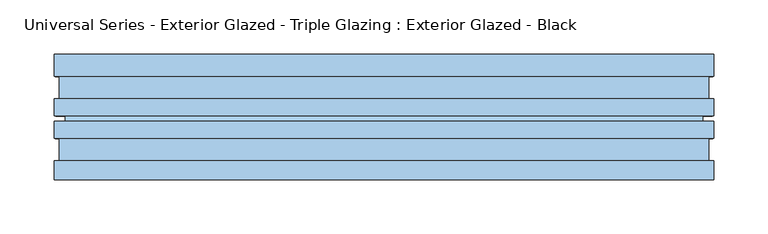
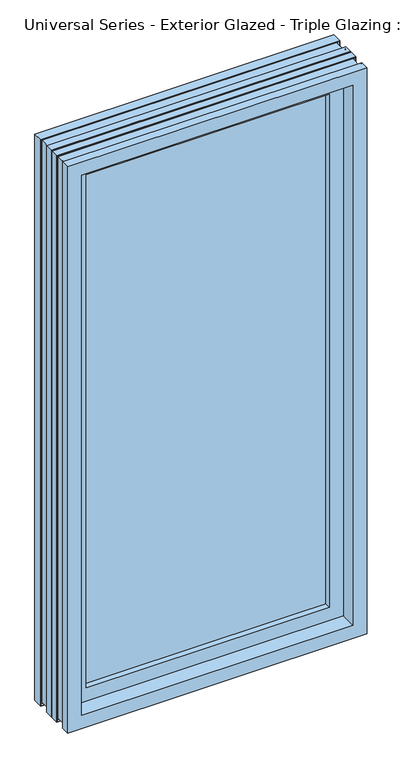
"""IFC4 building model written with IfcOpenShell, lengths in millimetres: window geometry, Universal Series - Exterior Glazed - Triple Glazing : Exterior Glazed - Black."""

from ifc_helpers import new_model, si_unit, frame, origin, place, context, project, spatial, polyline, ellipse_curve, outline, extrude, faceted_brep, source, transform, mapped, element, save
from ifc_brep_helpers import plane_surface, revolved_surface, advanced_brep


def universal_series_exterior_glazed_triple_glazing_exterior_8804a1f0(model_context):
    return source(origin(), model_context, "Body", "SolidModel", [
        extrude(outline(polyline([(276.225, 122.225), (276.225, 117.065625), (-276.225, 117.065625), (-276.225, 122.225), (276.225, 122.225)])), frame((0.0, 0.0, 790.575), z_axis=(0.0, 0.0, 1.0), x_axis=(1.0, 0.0, 0.0)), (0.0, 0.0, 1.0), 1162.05),
        extrude(outline(polyline([(276.225, 100.9921875), (276.225, 95.8328125), (-276.225, 95.8328125), (-276.225, 100.9921875), (276.225, 100.9921875)])), frame((0.0, 0.0, 790.575), z_axis=(0.0, 0.0, 1.0), x_axis=(1.0, 0.0, 0.0)), (0.0, 0.0, 1.0), 1162.05),
        extrude(outline(polyline([(276.225, 79.759375), (276.225, 74.6), (-276.225, 74.6), (-276.225, 79.759375), (276.225, 79.759375)])), frame((0.0, 0.0, 790.575), z_axis=(0.0, 0.0, 1.0), x_axis=(1.0, 0.0, 0.0)), (0.0, 0.0, 1.0), 1162.05),
        faceted_brep([(247.65, 122.225, 1924.05), (249.2375, 144.45, 1925.6375), (249.2375, 144.45, 817.5625), (247.65, 122.225, 819.15), (-249.2375, 144.45, 817.5625), (-247.65, 122.225, 819.15), (-285.75, 144.45, 781.05), (-285.75, 144.45, 1962.15), (285.75, 144.45, 1962.15), (285.75, 144.45, 781.05), (-249.2375, 144.45, 1925.6375), (-247.65, 122.225, 1924.05), (276.225, 123.8125, 790.575), (-276.225, 123.8125, 790.575), (276.225, 123.8125, 1952.625), (-276.225, 123.8125, 1952.625), (276.225, 142.8625, 790.575), (-276.225, 142.8625, 790.575), (276.225, 142.8625, 1952.625), (-276.225, 142.8625, 1952.625), (285.75, 142.8625, 781.05), (285.75, 142.8625, 1962.15), (-285.75, 142.8625, 1962.15), (-285.75, 142.8625, 781.05)], [[[0, 1, 2, 3]], [[3, 2, 4, 5]], [[6, 7, 8, 9], [2, 1, 10, 4]], [[5, 4, 10, 11]], [[12, 3, 5, 13]], [[14, 0, 3, 12]], [[13, 5, 11, 15]], [[16, 12, 13, 17]], [[18, 14, 12, 16]], [[17, 13, 15, 19]], [[20, 21, 22, 23], [17, 19, 18, 16]], [[8, 21, 20, 9]], [[9, 20, 23, 6]], [[6, 23, 22, 7]], [[11, 10, 1, 0]], [[15, 11, 0, 14]], [[19, 15, 14, 18]], [[7, 22, 21, 8]]]),
        advanced_brep(
        [(304.8, 46.025, 1981.2), (304.8, 28.5625, 1981.2), (304.8, 28.5625, 762.0), (304.8, 46.025, 762.0), (-304.8, 28.5625, 762.0), (-304.8, 46.025, 762.0), (-304.8, 28.5625, 1981.2), (-276.225, 28.5625, 790.575), (-276.225, 28.5625, 1952.625), (276.225, 28.5625, 1952.625), (276.225, 28.5625, 790.575), (-304.8, 46.025, 1981.2), (303.609375, 46.025, 763.190625), (303.609375, 46.025, 1980.009375), (-303.609375, 46.025, 1980.009375), (-303.609375, 46.025, 763.190625), (302.021875, 42.85, 1978.421875), (302.021875, 42.85, 764.778125), (-302.021875, 42.85, 764.778125), (-302.021875, 42.85, 1978.421875), (300.0375, 42.85, 766.7625), (300.0375, 42.85, 1976.4375), (-300.0375, 42.85, 1976.4375), (-300.0375, 42.85, 766.7625), (300.0375, 69.8375, 1976.4375), (300.0375, 69.8375, 766.7625), (-300.0375, 69.8375, 766.7625), (-300.0375, 69.8375, 1976.4375), (302.021875, 69.8375, 764.778125), (302.021875, 69.8375, 1978.421875), (-302.021875, 69.8375, 1978.421875), (-302.021875, 69.8375, 764.778125), (303.609375, 66.6625, 1980.009375), (303.609375, 66.6625, 763.190625), (-303.609375, 66.6625, 763.190625), (-303.609375, 66.6625, 1980.009375), (304.8, 66.6625, 762.0), (304.8, 66.6625, 1981.2), (-304.8, 66.6625, 1981.2), (-304.8, 66.6625, 762.0), (304.8, 82.5375, 1981.2), (304.8, 82.5375, 762.0), (-304.8, 82.5375, 762.0), (-304.8, 82.5375, 1981.2), (303.2125, 82.5375, 763.5875), (303.2125, 82.5375, 1979.6125), (-303.2125, 82.5375, 1979.6125), (-303.2125, 82.5375, 763.5875), (303.2125, 87.3, 1979.6125), (303.2125, 87.3, 763.5875), (-303.2125, 87.3, 763.5875), (-303.2125, 87.3, 1979.6125), (304.8, 87.3, 762.0), (304.8, 87.3, 1981.2), (-304.8, 87.3, 1981.2), (-304.8, 87.3, 762.0), (304.8, 103.175, 1981.2), (304.8, 103.175, 762.0), (-304.8, 103.175, 762.0), (-304.8, 103.175, 1981.2), (303.609375, 103.175, 763.190625), (303.609375, 103.175, 1980.009375), (-303.609375, 103.175, 1980.009375), (-303.609375, 103.175, 763.190625), (302.021875, 100.0, 1978.421875), (302.021875, 100.0, 764.778125), (-302.021875, 100.0, 764.778125), (-302.021875, 100.0, 1978.421875), (300.0375, 100.0, 766.7625), (300.0375, 100.0, 1976.4375), (-300.0375, 100.0, 1976.4375), (-300.0375, 100.0, 766.7625), (300.0375, 126.9875, 1976.4375), (300.0375, 126.9875, 766.7625), (-300.0375, 126.9875, 766.7625), (-300.0375, 126.9875, 1976.4375), (302.021875, 126.9875, 764.778125), (302.021875, 126.9875, 1978.421875), (-302.021875, 126.9875, 1978.421875), (-302.021875, 126.9875, 764.778125), (303.609375, 123.8125, 1980.009375), (303.609375, 123.8125, 763.190625), (-303.609375, 123.8125, 763.190625), (-303.609375, 123.8125, 1980.009375), (304.8, 123.8125, 762.0), (304.8, 123.8125, 1981.2), (-304.8, 123.8125, 1981.2), (-304.8, 123.8125, 762.0), (304.8, 144.45, 1981.2), (304.8, 144.45, 762.0), (-304.8, 144.45, 762.0), (-304.8, 144.45, 1981.2), (285.75, 144.45, 781.05), (285.75, 144.45, 1962.15), (-285.75, 144.45, 1962.15), (-285.75, 144.45, 781.05), (285.75, 130.1625, 1962.15), (285.75, 130.1625, 781.05), (-285.75, 130.1625, 781.05), (-285.75, 130.1625, 1962.15), (276.225, 130.1625, 790.575), (276.225, 130.1625, 1952.625), (-276.225, 130.1625, 1952.625), (-276.225, 130.1625, 790.575), (276.225, 74.6, 1952.625), (276.225, 74.6, 790.575), (-276.225, 74.6, 790.575), (-276.225, 74.6, 1952.625), (247.65, 74.6, 819.15), (247.65, 74.6, 1924.05), (-247.65, 74.6, 1924.05), (-247.65, 74.6, 819.15), (247.65, 61.9, 1924.05), (247.65, 61.9, 819.15), (-247.65, 61.9, 819.15), (-247.65, 61.9, 1924.05), (276.225, 61.9, 790.575), (276.225, 61.9, 1952.625), (-276.225, 61.9, 1952.625), (-276.225, 61.9, 790.575)],
        [
            (0, 1),
            (1, 2),
            (2, 3),
            (3, 0),
            (2, 4),
            (4, 5),
            (5, 3),
            (1, 6),
            (6, 4),
            (7, 8),
            (8, 9),
            (9, 10),
            (10, 7),
            (6, 11),
            (11, 5),
            (11, 0),
            (12, 13),
            (13, 14),
            (14, 15),
            (15, 12),
            (16, 13),
            (12, 17),
            (17, 16),
            (15, 18),
            (18, 17),
            (14, 19),
            (19, 18),
            (19, 16),
            (20, 21),
            (21, 22),
            (22, 23),
            (23, 20),
            (24, 21),
            (20, 25),
            (25, 24),
            (23, 26),
            (26, 25),
            (22, 27),
            (27, 26),
            (28, 29),
            (29, 30),
            (30, 31),
            (31, 28),
            (27, 24),
            (32, 29),
            (28, 33),
            (33, 32),
            (31, 34),
            (34, 33),
            (30, 35),
            (35, 34),
            (36, 37),
            (37, 38),
            (38, 39),
            (39, 36),
            (35, 32),
            (40, 37),
            (36, 41),
            (41, 40),
            (39, 42),
            (42, 41),
            (38, 43),
            (43, 42),
            (43, 40),
            (44, 45),
            (45, 46),
            (46, 47),
            (47, 44),
            (48, 45, ellipse_curve(frame((299.088054, 84.91875, 1975.488054), z_axis=(-0.7071067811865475, 0.0, 0.7071067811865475), x_axis=(-0.7071067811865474, 0.0, -0.7071067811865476)), 6.7351921, 4.7625)),
            (44, 49, ellipse_curve(frame((299.088054, 84.91875, 767.711946), z_axis=(-0.7071067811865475, 0.0, -0.7071067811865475), x_axis=(0.7071067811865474, 0.0, -0.7071067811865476)), 6.7351921, 4.7625)),
            (49, 48),
            (47, 50, ellipse_curve(frame((-299.088054, 84.91875, 767.711946), z_axis=(-0.7071067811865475, 0.0, 0.7071067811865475), x_axis=(-0.7071067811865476, 0.0, -0.7071067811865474)), 6.7351921, 4.7625)),
            (50, 49),
            (46, 51, ellipse_curve(frame((-299.088054, 84.91875, 1975.488054), z_axis=(0.7071067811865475, 0.0, 0.7071067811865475), x_axis=(-0.7071067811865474, 0.0, 0.7071067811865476)), 6.7351921, 4.7625)),
            (51, 50),
            (52, 53),
            (53, 54),
            (54, 55),
            (55, 52),
            (51, 48),
            (56, 53),
            (52, 57),
            (57, 56),
            (55, 58),
            (58, 57),
            (54, 59),
            (59, 58),
            (59, 56),
            (60, 61),
            (61, 62),
            (62, 63),
            (63, 60),
            (64, 61),
            (60, 65),
            (65, 64),
            (63, 66),
            (66, 65),
            (62, 67),
            (67, 66),
            (67, 64),
            (68, 69),
            (69, 70),
            (70, 71),
            (71, 68),
            (72, 69),
            (68, 73),
            (73, 72),
            (71, 74),
            (74, 73),
            (70, 75),
            (75, 74),
            (76, 77),
            (77, 78),
            (78, 79),
            (79, 76),
            (75, 72),
            (80, 77),
            (76, 81),
            (81, 80),
            (79, 82),
            (82, 81),
            (78, 83),
            (83, 82),
            (84, 85),
            (85, 86),
            (86, 87),
            (87, 84),
            (83, 80),
            (88, 85),
            (84, 89),
            (89, 88),
            (87, 90),
            (90, 89),
            (86, 91),
            (91, 90),
            (91, 88),
            (92, 93),
            (93, 94),
            (94, 95),
            (95, 92),
            (96, 93),
            (92, 97),
            (97, 96),
            (95, 98),
            (98, 97),
            (94, 99),
            (99, 98),
            (99, 96),
            (100, 101),
            (101, 102),
            (102, 103),
            (103, 100),
            (104, 101),
            (100, 105),
            (105, 104),
            (103, 106),
            (106, 105),
            (102, 107),
            (107, 106),
            (107, 104),
            (108, 109),
            (109, 110),
            (110, 111),
            (111, 108),
            (112, 109),
            (108, 113),
            (113, 112),
            (111, 114),
            (114, 113),
            (110, 115),
            (115, 114),
            (116, 117),
            (117, 118),
            (118, 119),
            (119, 116),
            (115, 112),
            (9, 117),
            (116, 10),
            (119, 7),
            (118, 8),
        ],
        [
            plane_surface(frame((304.8, 28.5625, 1981.2), z_axis=(1.0, 0.0, 0.0), x_axis=(0.0, 0.0, -1.0))),
            plane_surface(frame((304.8, 28.5625, 762.0), z_axis=(0.0, 0.0, -1.0), x_axis=(-1.0, 0.0, 0.0))),
            plane_surface(frame((276.225, 28.5625, 1952.625), z_axis=(0.0, -1.0, 0.0), x_axis=(0.0, 0.0, -1.0))),
            plane_surface(frame((-304.8, 28.5625, 762.0), z_axis=(-1.0, 0.0, 0.0), x_axis=(0.0, 0.0, 1.0))),
            plane_surface(frame((304.8, 46.025, 1981.2), z_axis=(0.0, 1.0, 0.0), x_axis=(0.0, 0.0, -1.0))),
            plane_surface(frame((303.609375, 46.025, 1980.009375), z_axis=(-0.8944271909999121, 0.4472135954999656, 0.0), x_axis=(0.0, 0.0, -1.0))),
            plane_surface(frame((303.609375, 46.025, 763.190625), z_axis=(0.0, 0.4472135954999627, 0.8944271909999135), x_axis=(-1.0, 0.0, 0.0))),
            plane_surface(frame((-303.609375, 46.025, 763.190625), z_axis=(0.894427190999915, 0.4472135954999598, 0.0), x_axis=(0.0, 0.0, 1.0))),
            plane_surface(frame((302.021875, 42.85, 1978.421875), z_axis=(0.0, 1.0, 0.0), x_axis=(0.0, 0.0, -1.0))),
            plane_surface(frame((300.0375, 42.85, 1976.4375), z_axis=(1.0, 0.0, 0.0), x_axis=(0.0, 0.0, -1.0))),
            plane_surface(frame((300.0375, 42.85, 766.7625), z_axis=(0.0, 0.0, -1.0), x_axis=(-1.0, 0.0, 0.0))),
            plane_surface(frame((-300.0375, 42.85, 766.7625), z_axis=(-1.0, 0.0, 0.0), x_axis=(0.0, 0.0, 1.0))),
            plane_surface(frame((300.0375, 69.8375, 1976.4375), z_axis=(0.0, -1.0, 0.0), x_axis=(0.0, 0.0, -1.0))),
            plane_surface(frame((302.021875, 69.8375, 1978.421875), z_axis=(-0.8944271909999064, -0.447213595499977, 0.0), x_axis=(0.0, 0.0, -1.0))),
            plane_surface(frame((302.021875, 69.8375, 764.778125), z_axis=(0.0, -0.4472135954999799, 0.894427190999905), x_axis=(-1.0, 0.0, 0.0))),
            plane_surface(frame((-302.021875, 69.8375, 764.778125), z_axis=(0.8944271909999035, -0.4472135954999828, 0.0), x_axis=(0.0, 0.0, 1.0))),
            plane_surface(frame((303.609375, 66.6625, 1980.009375), z_axis=(0.0, -1.0, 0.0), x_axis=(0.0, 0.0, -1.0))),
            plane_surface(frame((304.8, 66.6625, 1981.2), z_axis=(1.0, 0.0, 0.0), x_axis=(0.0, 0.0, -1.0))),
            plane_surface(frame((304.8, 66.6625, 762.0), z_axis=(0.0, 0.0, -1.0), x_axis=(-1.0, 0.0, 0.0))),
            plane_surface(frame((-304.8, 66.6625, 762.0), z_axis=(-1.0, 0.0, 0.0), x_axis=(0.0, 0.0, 1.0))),
            plane_surface(frame((304.8, 82.5375, 1981.2), z_axis=(0.0, 1.0, 0.0), x_axis=(0.0, 0.0, -1.0))),
            revolved_surface(polyline([(299.088054, 80.15625, 762.949445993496), (299.088054, 80.15625, 1980.250554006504)]), (299.088054, 84.91875, 1981.2), (0.0, 0.0, -1.0)),
            revolved_surface(polyline([(-303.85055400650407, 80.15625, 767.711946), (303.85055400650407, 80.15625, 767.711946)]), (304.8, 84.91875, 767.711946), (-1.0, 0.0, 0.0)),
            revolved_surface(polyline([(-299.088054, 80.15625, 1980.250554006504), (-299.088054, 80.15625, 762.9494459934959)]), (-299.088054, 84.91875, 762.0), (0.0, 0.0, 1.0)),
            plane_surface(frame((303.2125, 87.3, 1979.6125), z_axis=(0.0, -1.0, 0.0), x_axis=(0.0, 0.0, -1.0))),
            plane_surface(frame((304.8, 87.3, 1981.2), z_axis=(1.0, 0.0, 0.0), x_axis=(0.0, 0.0, -1.0))),
            plane_surface(frame((304.8, 87.3, 762.0), z_axis=(0.0, 0.0, -1.0), x_axis=(-1.0, 0.0, 0.0))),
            plane_surface(frame((-304.8, 87.3, 762.0), z_axis=(-1.0, 0.0, 0.0), x_axis=(0.0, 0.0, 1.0))),
            plane_surface(frame((304.8, 103.175, 1981.2), z_axis=(0.0, 1.0, 0.0), x_axis=(0.0, 0.0, -1.0))),
            plane_surface(frame((303.609375, 103.175, 1980.009375), z_axis=(-0.8944271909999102, 0.44721359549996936, 0.0), x_axis=(0.0, 0.0, -1.0))),
            plane_surface(frame((303.609375, 103.175, 763.190625), z_axis=(0.0, 0.4472135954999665, 0.8944271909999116), x_axis=(-1.0, 0.0, 0.0))),
            plane_surface(frame((-303.609375, 103.175, 763.190625), z_axis=(0.8944271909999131, 0.4472135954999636, 0.0), x_axis=(0.0, 0.0, 1.0))),
            plane_surface(frame((302.021875, 100.0, 1978.421875), z_axis=(0.0, 1.0, 0.0), x_axis=(0.0, 0.0, -1.0))),
            plane_surface(frame((300.0375, 100.0, 1976.4375), z_axis=(1.0, 0.0, 0.0), x_axis=(0.0, 0.0, -1.0))),
            plane_surface(frame((300.0375, 100.0, 766.7625), z_axis=(0.0, 0.0, -1.0), x_axis=(-1.0, 0.0, 0.0))),
            plane_surface(frame((-300.0375, 100.0, 766.7625), z_axis=(-1.0, 0.0, 0.0), x_axis=(0.0, 0.0, 1.0))),
            plane_surface(frame((300.0375, 126.9875, 1976.4375), z_axis=(0.0, -1.0, 0.0), x_axis=(0.0, 0.0, -1.0))),
            plane_surface(frame((302.021875, 126.9875, 1978.421875), z_axis=(-0.8944271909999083, -0.44721359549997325, 0.0), x_axis=(0.0, 0.0, -1.0))),
            plane_surface(frame((302.021875, 126.9875, 764.778125), z_axis=(0.0, -0.4472135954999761, 0.8944271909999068), x_axis=(-1.0, 0.0, 0.0))),
            plane_surface(frame((-302.021875, 126.9875, 764.778125), z_axis=(0.8944271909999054, -0.447213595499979, 0.0), x_axis=(0.0, 0.0, 1.0))),
            plane_surface(frame((303.609375, 123.8125, 1980.009375), z_axis=(0.0, -1.0, 0.0), x_axis=(0.0, 0.0, -1.0))),
            plane_surface(frame((304.8, 123.8125, 1981.2), z_axis=(1.0, 0.0, 0.0), x_axis=(0.0, 0.0, -1.0))),
            plane_surface(frame((304.8, 123.8125, 762.0), z_axis=(0.0, 0.0, -1.0), x_axis=(-1.0, 0.0, 0.0))),
            plane_surface(frame((-304.8, 123.8125, 762.0), z_axis=(-1.0, 0.0, 0.0), x_axis=(0.0, 0.0, 1.0))),
            plane_surface(frame((304.8, 144.45, 1981.2), z_axis=(0.0, 1.0, 0.0), x_axis=(0.0, 0.0, -1.0))),
            plane_surface(frame((285.75, 144.45, 1962.15), z_axis=(-1.0, 0.0, 0.0), x_axis=(0.0, 0.0, -1.0))),
            plane_surface(frame((285.75, 144.45, 781.05), z_axis=(0.0, 0.0, 1.0), x_axis=(-1.0, 0.0, 0.0))),
            plane_surface(frame((-285.75, 144.45, 781.05), z_axis=(1.0, 0.0, 0.0), x_axis=(0.0, 0.0, 1.0))),
            plane_surface(frame((285.75, 130.1625, 1962.15), z_axis=(0.0, 1.0, 0.0), x_axis=(0.0, 0.0, -1.0))),
            plane_surface(frame((276.225, 130.1625, 1952.625), z_axis=(-1.0, 0.0, 0.0), x_axis=(0.0, 0.0, -1.0))),
            plane_surface(frame((276.225, 130.1625, 790.575), z_axis=(0.0, 0.0, 1.0), x_axis=(-1.0, 0.0, 0.0))),
            plane_surface(frame((-276.225, 130.1625, 790.575), z_axis=(1.0, 0.0, 0.0), x_axis=(0.0, 0.0, 1.0))),
            plane_surface(frame((276.225, 74.6, 1952.625), z_axis=(0.0, 1.0, 0.0), x_axis=(0.0, 0.0, -1.0))),
            plane_surface(frame((247.65, 74.6, 1924.05), z_axis=(-1.0, 0.0, 0.0), x_axis=(0.0, 0.0, -1.0))),
            plane_surface(frame((247.65, 74.6, 819.15), z_axis=(0.0, 0.0, 1.0), x_axis=(-1.0, 0.0, 0.0))),
            plane_surface(frame((-247.65, 74.6, 819.15), z_axis=(1.0, 0.0, 0.0), x_axis=(0.0, 0.0, 1.0))),
            plane_surface(frame((247.65, 61.9, 1924.05), z_axis=(0.0, -1.0, 0.0), x_axis=(0.0, 0.0, -1.0))),
            plane_surface(frame((276.225, 61.9, 1952.625), z_axis=(-1.0, 0.0, 0.0), x_axis=(0.0, 0.0, -1.0))),
            plane_surface(frame((276.225, 61.9, 790.575), z_axis=(0.0, 0.0, 1.0), x_axis=(-1.0, 0.0, 0.0))),
            plane_surface(frame((-276.225, 61.9, 790.575), z_axis=(1.0, 0.0, 0.0), x_axis=(0.0, 0.0, 1.0))),
            plane_surface(frame((-304.8, 28.5625, 1981.2), z_axis=(0.0, 0.0, 1.0), x_axis=(1.0, 0.0, 0.0))),
            plane_surface(frame((-303.609375, 46.025, 1980.009375), z_axis=(0.0, 0.4472135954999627, -0.8944271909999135), x_axis=(1.0, 0.0, 0.0))),
            plane_surface(frame((-300.0375, 42.85, 1976.4375), z_axis=(0.0, 0.0, 1.0), x_axis=(1.0, 0.0, 0.0))),
            plane_surface(frame((-302.021875, 69.8375, 1978.421875), z_axis=(0.0, -0.4472135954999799, -0.894427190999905), x_axis=(1.0, 0.0, 0.0))),
            plane_surface(frame((-304.8, 66.6625, 1981.2), z_axis=(0.0, 0.0, 1.0), x_axis=(1.0, 0.0, 0.0))),
            revolved_surface(polyline([(303.85055400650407, 80.15625, 1975.488054), (-303.85055400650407, 80.15625, 1975.488054)]), (-304.8, 84.91875, 1975.488054), (1.0, 0.0, 0.0)),
            plane_surface(frame((-304.8, 87.3, 1981.2), z_axis=(0.0, 0.0, 1.0), x_axis=(1.0, 0.0, 0.0))),
            plane_surface(frame((-303.609375, 103.175, 1980.009375), z_axis=(0.0, 0.4472135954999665, -0.8944271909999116), x_axis=(1.0, 0.0, 0.0))),
            plane_surface(frame((-300.0375, 100.0, 1976.4375), z_axis=(0.0, 0.0, 1.0), x_axis=(1.0, 0.0, 0.0))),
            plane_surface(frame((-302.021875, 126.9875, 1978.421875), z_axis=(0.0, -0.44721359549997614, -0.8944271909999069), x_axis=(1.0, 0.0, 0.0))),
            plane_surface(frame((-304.8, 123.8125, 1981.2), z_axis=(0.0, 0.0, 1.0), x_axis=(1.0, 0.0, 0.0))),
            plane_surface(frame((-285.75, 144.45, 1962.15), z_axis=(0.0, 0.0, -1.0), x_axis=(1.0, 0.0, 0.0))),
            plane_surface(frame((-276.225, 130.1625, 1952.625), z_axis=(0.0, 0.0, -1.0), x_axis=(1.0, 0.0, 0.0))),
            plane_surface(frame((-247.65, 74.6, 1924.05), z_axis=(0.0, 0.0, -1.0), x_axis=(1.0, 0.0, 0.0))),
            plane_surface(frame((-276.225, 61.9, 1952.625), z_axis=(0.0, 0.0, -1.0), x_axis=(1.0, 0.0, 0.0))),
        ],
        [
            (0, [[1, 2, 3, 4]]),
            (1, [[-3, 5, 6, 7]]),
            (2, [[-2, 8, 9, -5], [10, 11, 12, 13]]),
            (3, [[-6, -9, 14, 15]]),
            (4, [[-15, 16, -4, -7], [17, 18, 19, 20]]),
            (5, [[21, -17, 22, 23]]),
            (6, [[-22, -20, 24, 25]]),
            (7, [[-24, -19, 26, 27]]),
            (8, [[-27, 28, -23, -25], [29, 30, 31, 32]]),
            (9, [[33, -29, 34, 35]]),
            (10, [[-34, -32, 36, 37]]),
            (11, [[-36, -31, 38, 39]]),
            (12, [[40, 41, 42, 43], [-39, 44, -35, -37]]),
            (13, [[45, -40, 46, 47]]),
            (14, [[-46, -43, 48, 49]]),
            (15, [[-48, -42, 50, 51]]),
            (16, [[52, 53, 54, 55], [-51, 56, -47, -49]]),
            (17, [[57, -52, 58, 59]]),
            (18, [[-58, -55, 60, 61]]),
            (19, [[-60, -54, 62, 63]]),
            (20, [[-63, 64, -59, -61], [65, 66, 67, 68]]),
            (21, [[69, -65, 70, 71]]),
            (22, [[-70, -68, 72, 73]]),
            (23, [[-72, -67, 74, 75]]),
            (24, [[76, 77, 78, 79], [-75, 80, -71, -73]]),
            (25, [[81, -76, 82, 83]]),
            (26, [[-82, -79, 84, 85]]),
            (27, [[-84, -78, 86, 87]]),
            (28, [[-87, 88, -83, -85], [89, 90, 91, 92]]),
            (29, [[93, -89, 94, 95]]),
            (30, [[-94, -92, 96, 97]]),
            (31, [[-96, -91, 98, 99]]),
            (32, [[-99, 100, -95, -97], [101, 102, 103, 104]]),
            (33, [[105, -101, 106, 107]]),
            (34, [[-106, -104, 108, 109]]),
            (35, [[-108, -103, 110, 111]]),
            (36, [[112, 113, 114, 115], [-111, 116, -107, -109]]),
            (37, [[117, -112, 118, 119]]),
            (38, [[-118, -115, 120, 121]]),
            (39, [[-120, -114, 122, 123]]),
            (40, [[124, 125, 126, 127], [-123, 128, -119, -121]]),
            (41, [[129, -124, 130, 131]]),
            (42, [[-130, -127, 132, 133]]),
            (43, [[-132, -126, 134, 135]]),
            (44, [[-135, 136, -131, -133], [137, 138, 139, 140]]),
            (45, [[141, -137, 142, 143]]),
            (46, [[-142, -140, 144, 145]]),
            (47, [[-144, -139, 146, 147]]),
            (48, [[-147, 148, -143, -145], [149, 150, 151, 152]]),
            (49, [[153, -149, 154, 155]]),
            (50, [[-154, -152, 156, 157]]),
            (51, [[-156, -151, 158, 159]]),
            (52, [[-159, 160, -155, -157], [161, 162, 163, 164]]),
            (53, [[165, -161, 166, 167]]),
            (54, [[-166, -164, 168, 169]]),
            (55, [[-168, -163, 170, 171]]),
            (56, [[172, 173, 174, 175], [-171, 176, -167, -169]]),
            (57, [[177, -172, 178, -12]]),
            (58, [[-178, -175, 179, -13]]),
            (59, [[-179, -174, 180, -10]]),
            (60, [[-14, -8, -1, -16]]),
            (61, [[-26, -18, -21, -28]]),
            (62, [[-38, -30, -33, -44]]),
            (63, [[-50, -41, -45, -56]]),
            (64, [[-62, -53, -57, -64]]),
            (65, [[-74, -66, -69, -80]]),
            (66, [[-86, -77, -81, -88]]),
            (67, [[-98, -90, -93, -100]]),
            (68, [[-110, -102, -105, -116]]),
            (69, [[-122, -113, -117, -128]]),
            (70, [[-134, -125, -129, -136]]),
            (71, [[-146, -138, -141, -148]]),
            (72, [[-158, -150, -153, -160]]),
            (73, [[-170, -162, -165, -176]]),
            (74, [[-180, -173, -177, -11]]),
        ],
    ),
    ])


if __name__ == "__main__":
    model = new_model("IFC4")
    model_context = context("Model", 3, world=origin())
    ifc_project = project(units=[si_unit("LENGTHUNIT", "METRE", prefix="MILLI")], contexts=[model_context])
    site = spatial("IfcSite", under=ifc_project)
    building = spatial("IfcBuilding", under=site)
    placement = place(None, origin())
    universal_series_exterior_glazed_triple_glazing_exterior_shape = universal_series_exterior_glazed_triple_glazing_exterior_8804a1f0(model_context)
    element("IfcWindow", 1, ObjectType="Universal Series - Exterior Glazed - Triple Glazing : Exterior Glazed - Black", at=placement, inside=building, context=model_context, shape_type="MappedRepresentation", body=[
        mapped(universal_series_exterior_glazed_triple_glazing_exterior_shape, transform((0.0, 0.0, 0.0), x_axis=(1.0, 0.0, 0.0), y_axis=(0.0, 1.0, 0.0), z_axis=(0.0, 0.0, 1.0))),
    ])
    save(model, "model.ifc")
